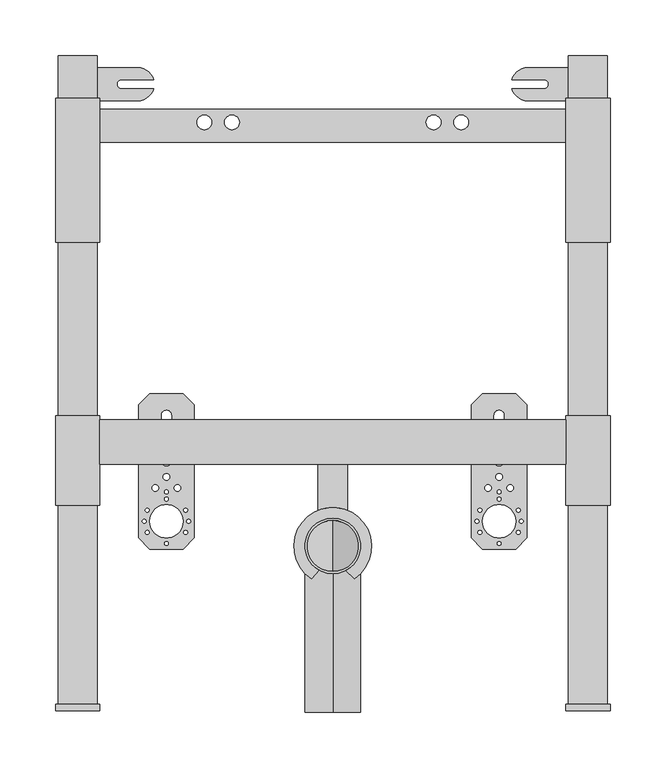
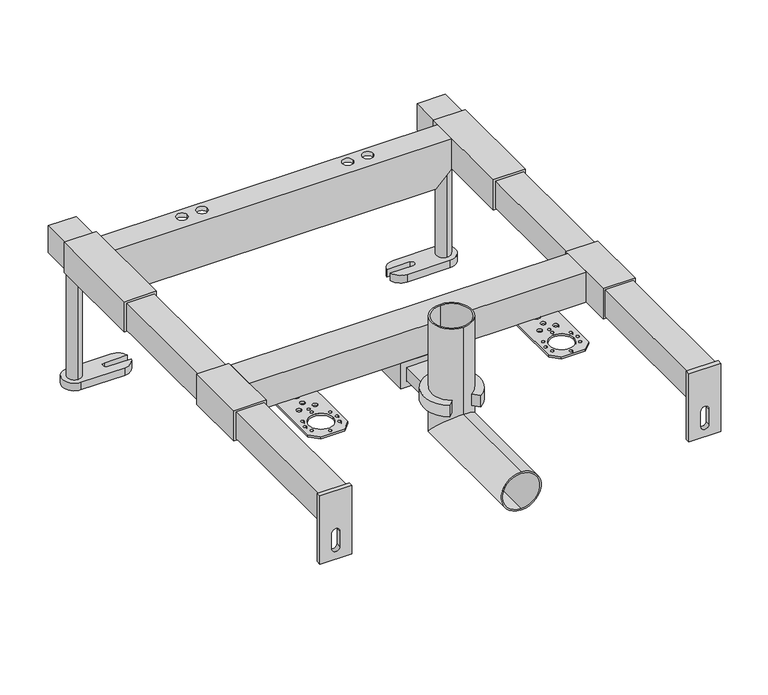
"""IFC4 building model written with IfcOpenShell, lengths in millimetres: flow terminal geometry, LIV-FIX BD 59 cm : LIV-FIX BD 59 cm."""

from ifc_helpers import new_model, si_unit, point, frame, frame_2d, origin, origin_with_axes, place, context, project, spatial, polyline, circle_curve, ellipse_curve, trimmed, segment, composite_curve, outline, extrude, source, transform, mapped, element, save
from ifc_brep_helpers import plane_surface, cylinder_surface, revolved_surface, advanced_brep


def flow_terminal_052f3f1a(model_context):
    return source(origin(), model_context, "Body", "SolidModel", [
        extrude(outline(polyline([(-210.0, 422.2826005), (-250.0, 422.2826005), (-250.0, 552.0), (-210.0, 552.0), (-210.0, 422.2826005)])), frame((0.0, 0.0, 160.0), z_axis=(0.0, 0.0, 1.0), x_axis=(1.0, 0.0, 0.0)), (0.0, 0.0, 1.0), 40.0),
        extrude(outline(polyline([(250.0, 422.2826005), (210.0, 422.2826005), (210.0, 552.0), (250.0, 552.0), (250.0, 422.2826005)])), frame((0.0, 0.0, 160.0), z_axis=(0.0, 0.0, 1.0), x_axis=(1.0, 0.0, 0.0)), (0.0, 0.0, 1.0), 40.0),
        extrude(outline(polyline([(-134.9772366, 285.710972), (-124.9772366, 275.710972), (-124.9772366, 155.710972), (-134.9772366, 145.710972), (-164.9772366, 145.710972), (-174.9772366, 155.710972), (-174.9772366, 275.710972), (-164.9772366, 285.710972), (-134.9772366, 285.710972)]), holes=[composite_curve([segment(trimmed(circle_curve(frame_2d((-149.9772366, 266.210972)), 4.5), [point((-145.4772366, 266.210972))], [point((-154.4772366, 266.210972))], True, "CARTESIAN"), True, "CONTINUOUS"), segment(polyline([(-154.4772366, 266.210972), (-154.4772366, 225.210972)]), True, "CONTINUOUS"), segment(trimmed(circle_curve(frame_2d((-149.9772366, 225.210972)), 4.5), [point((-154.4772366, 225.210972))], [point((-145.4772366, 225.210972))], True, "CARTESIAN"), True, "CONTINUOUS"), segment(polyline([(-145.4772366, 225.210972), (-145.4772366, 266.210972)]), True, "CONTINUOUS")], self_intersect=False), composite_curve([segment(trimmed(circle_curve(frame_2d((-149.9772366, 170.710972)), 15.0), [point((-164.9772366, 170.710972))], [point((-134.9772366, 170.710972))], True, "CARTESIAN"), True, "CONTINUOUS"), segment(trimmed(circle_curve(frame_2d((-149.9772366, 170.710972)), 15.0), [point((-134.9772366, 170.710972))], [point((-164.9772366, 170.710972))], True, "CARTESIAN"), True, "CONTINUOUS")], self_intersect=False), composite_curve([segment(trimmed(circle_curve(frame_2d((-129.9772366, 170.710972)), 1.75), [point((-131.7272366, 170.710972))], [point((-128.2272366, 170.710972))], True, "CARTESIAN"), True, "CONTINUOUS"), segment(trimmed(circle_curve(frame_2d((-129.9772366, 170.710972)), 1.75), [point((-128.2272366, 170.710972))], [point((-131.7272366, 170.710972))], True, "CARTESIAN"), True, "CONTINUOUS")], self_intersect=False), composite_curve([segment(trimmed(circle_curve(frame_2d((-149.9772366, 150.710972)), 1.75), [point((-151.7272366, 150.710972))], [point((-148.2272366, 150.710972))], True, "CARTESIAN"), True, "CONTINUOUS"), segment(trimmed(circle_curve(frame_2d((-149.9772366, 150.710972)), 1.75), [point((-148.2272366, 150.710972))], [point((-151.7272366, 150.710972))], True, "CARTESIAN"), True, "CONTINUOUS")], self_intersect=False), composite_curve([segment(trimmed(circle_curve(frame_2d((-169.9772366, 170.710972)), 1.75), [point((-171.7272366, 170.710972))], [point((-168.2272366, 170.710972))], True, "CARTESIAN"), True, "CONTINUOUS"), segment(trimmed(circle_curve(frame_2d((-169.9772366, 170.710972)), 1.75), [point((-168.2272366, 170.710972))], [point((-171.7272366, 170.710972))], True, "CARTESIAN"), True, "CONTINUOUS")], self_intersect=False), composite_curve([segment(trimmed(circle_curve(frame_2d((-149.9772366, 190.710972)), 1.75), [point((-151.7272366, 190.710972))], [point((-148.2272366, 190.710972))], True, "CARTESIAN"), True, "CONTINUOUS"), segment(trimmed(circle_curve(frame_2d((-149.9772366, 190.710972)), 1.75), [point((-148.2272366, 190.710972))], [point((-151.7272366, 190.710972))], True, "CARTESIAN"), True, "CONTINUOUS")], self_intersect=False), composite_curve([segment(trimmed(circle_curve(frame_2d((-167.2977447, 180.710972)), 1.75), [point((-169.0477447, 180.710972))], [point((-165.5477447, 180.710972))], True, "CARTESIAN"), True, "CONTINUOUS"), segment(trimmed(circle_curve(frame_2d((-167.2977447, 180.710972)), 1.75), [point((-165.5477447, 180.710972))], [point((-169.0477447, 180.710972))], True, "CARTESIAN"), True, "CONTINUOUS")], self_intersect=False), composite_curve([segment(trimmed(circle_curve(frame_2d((-167.2977447, 160.710972)), 1.75), [point((-169.0477447, 160.710972))], [point((-165.5477447, 160.710972))], True, "CARTESIAN"), True, "CONTINUOUS"), segment(trimmed(circle_curve(frame_2d((-167.2977447, 160.710972)), 1.75), [point((-165.5477447, 160.710972))], [point((-169.0477447, 160.710972))], True, "CARTESIAN"), True, "CONTINUOUS")], self_intersect=False), composite_curve([segment(trimmed(circle_curve(frame_2d((-132.6567285, 180.710972)), 1.75), [point((-134.4067285, 180.710972))], [point((-130.9067285, 180.710972))], True, "CARTESIAN"), True, "CONTINUOUS"), segment(trimmed(circle_curve(frame_2d((-132.6567285, 180.710972)), 1.75), [point((-130.9067285, 180.710972))], [point((-134.4067285, 180.710972))], True, "CARTESIAN"), True, "CONTINUOUS")], self_intersect=False), composite_curve([segment(trimmed(circle_curve(frame_2d((-132.6567285, 160.710972)), 1.75), [point((-134.4067285, 160.710972))], [point((-130.9067285, 160.710972))], True, "CARTESIAN"), True, "CONTINUOUS"), segment(trimmed(circle_curve(frame_2d((-132.6567285, 160.710972)), 1.75), [point((-130.9067285, 160.710972))], [point((-134.4067285, 160.710972))], True, "CARTESIAN"), True, "CONTINUOUS")], self_intersect=False), composite_curve([segment(trimmed(circle_curve(frame_2d((-139.9772366, 200.710972)), 3.0), [point((-142.9772366, 200.710972))], [point((-136.9772366, 200.710972))], True, "CARTESIAN"), True, "CONTINUOUS"), segment(trimmed(circle_curve(frame_2d((-139.9772366, 200.710972)), 3.0), [point((-136.9772366, 200.710972))], [point((-142.9772366, 200.710972))], True, "CARTESIAN"), True, "CONTINUOUS")], self_intersect=False), composite_curve([segment(trimmed(circle_curve(frame_2d((-149.9772366, 210.710972)), 3.0), [point((-152.9772366, 210.710972))], [point((-146.9772366, 210.710972))], True, "CARTESIAN"), True, "CONTINUOUS"), segment(trimmed(circle_curve(frame_2d((-149.9772366, 210.710972)), 3.0), [point((-146.9772366, 210.710972))], [point((-152.9772366, 210.710972))], True, "CARTESIAN"), True, "CONTINUOUS")], self_intersect=False), composite_curve([segment(trimmed(circle_curve(frame_2d((-159.9772366, 200.710972)), 3.0), [point((-162.9772366, 200.710972))], [point((-156.9772366, 200.710972))], True, "CARTESIAN"), True, "CONTINUOUS"), segment(trimmed(circle_curve(frame_2d((-159.9772366, 200.710972)), 3.0), [point((-156.9772366, 200.710972))], [point((-162.9772366, 200.710972))], True, "CARTESIAN"), True, "CONTINUOUS")], self_intersect=False), composite_curve([segment(trimmed(circle_curve(frame_2d((-149.9772366, 197.210972)), 1.75), [point((-151.7272366, 197.210972))], [point((-148.2272366, 197.210972))], True, "CARTESIAN"), True, "CONTINUOUS"), segment(trimmed(circle_curve(frame_2d((-149.9772366, 197.210972)), 1.75), [point((-148.2272366, 197.210972))], [point((-151.7272366, 197.210972))], True, "CARTESIAN"), True, "CONTINUOUS")], self_intersect=False)]), frame((0.0, 0.0, 157.5), z_axis=(0.0, 0.0, 1.0), x_axis=(1.0, 0.0, 0.0)), (0.0, 0.0, 1.0), 2.5),
        extrude(outline(polyline([(134.9772366, 285.710972), (164.9772366, 285.710972), (174.9772366, 275.710972), (174.9772366, 155.710972), (164.9772366, 145.710972), (134.9772366, 145.710972), (124.9772366, 155.710972), (124.9772366, 275.710972), (134.9772366, 285.710972)]), holes=[composite_curve([segment(polyline([(145.4772366, 266.210972), (145.4772366, 225.210972)]), True, "CONTINUOUS"), segment(trimmed(circle_curve(frame_2d((149.9772366, 225.210972)), 4.5), [point((145.4772366, 225.210972))], [point((154.4772366, 225.210972))], True, "CARTESIAN"), True, "CONTINUOUS"), segment(polyline([(154.4772366, 225.210972), (154.4772366, 266.210972)]), True, "CONTINUOUS"), segment(trimmed(circle_curve(frame_2d((149.9772366, 266.210972)), 4.5), [point((154.4772366, 266.210972))], [point((145.4772366, 266.210972))], True, "CARTESIAN"), True, "CONTINUOUS")], self_intersect=False), composite_curve([segment(trimmed(circle_curve(frame_2d((149.9772366, 170.710972)), 15.0), [point((134.9772366, 170.710972))], [point((164.9772366, 170.710972))], True, "CARTESIAN"), True, "CONTINUOUS"), segment(trimmed(circle_curve(frame_2d((149.9772366, 170.710972)), 15.0), [point((164.9772366, 170.710972))], [point((134.9772366, 170.710972))], True, "CARTESIAN"), True, "CONTINUOUS")], self_intersect=False), composite_curve([segment(trimmed(circle_curve(frame_2d((129.9772366, 170.710972)), 1.75), [point((128.2272366, 170.710972))], [point((131.7272366, 170.710972))], True, "CARTESIAN"), True, "CONTINUOUS"), segment(trimmed(circle_curve(frame_2d((129.9772366, 170.710972)), 1.75), [point((131.7272366, 170.710972))], [point((128.2272366, 170.710972))], True, "CARTESIAN"), True, "CONTINUOUS")], self_intersect=False), composite_curve([segment(trimmed(circle_curve(frame_2d((149.9772366, 150.710972)), 1.75), [point((148.2272366, 150.710972))], [point((151.7272366, 150.710972))], True, "CARTESIAN"), True, "CONTINUOUS"), segment(trimmed(circle_curve(frame_2d((149.9772366, 150.710972)), 1.75), [point((151.7272366, 150.710972))], [point((148.2272366, 150.710972))], True, "CARTESIAN"), True, "CONTINUOUS")], self_intersect=False), composite_curve([segment(trimmed(circle_curve(frame_2d((169.9772366, 170.710972)), 1.75), [point((168.2272366, 170.710972))], [point((171.7272366, 170.710972))], True, "CARTESIAN"), True, "CONTINUOUS"), segment(trimmed(circle_curve(frame_2d((169.9772366, 170.710972)), 1.75), [point((171.7272366, 170.710972))], [point((168.2272366, 170.710972))], True, "CARTESIAN"), True, "CONTINUOUS")], self_intersect=False), composite_curve([segment(trimmed(circle_curve(frame_2d((149.9772366, 190.710972)), 1.75), [point((148.2272366, 190.710972))], [point((151.7272366, 190.710972))], True, "CARTESIAN"), True, "CONTINUOUS"), segment(trimmed(circle_curve(frame_2d((149.9772366, 190.710972)), 1.75), [point((151.7272366, 190.710972))], [point((148.2272366, 190.710972))], True, "CARTESIAN"), True, "CONTINUOUS")], self_intersect=False), composite_curve([segment(trimmed(circle_curve(frame_2d((167.2977447, 180.710972)), 1.75), [point((165.5477447, 180.710972))], [point((169.0477447, 180.710972))], True, "CARTESIAN"), True, "CONTINUOUS"), segment(trimmed(circle_curve(frame_2d((167.2977447, 180.710972)), 1.75), [point((169.0477447, 180.710972))], [point((165.5477447, 180.710972))], True, "CARTESIAN"), True, "CONTINUOUS")], self_intersect=False), composite_curve([segment(trimmed(circle_curve(frame_2d((167.2977447, 160.710972)), 1.75), [point((165.5477447, 160.710972))], [point((169.0477447, 160.710972))], True, "CARTESIAN"), True, "CONTINUOUS"), segment(trimmed(circle_curve(frame_2d((167.2977447, 160.710972)), 1.75), [point((169.0477447, 160.710972))], [point((165.5477447, 160.710972))], True, "CARTESIAN"), True, "CONTINUOUS")], self_intersect=False), composite_curve([segment(trimmed(circle_curve(frame_2d((132.6567285, 180.710972)), 1.75), [point((130.9067285, 180.710972))], [point((134.4067285, 180.710972))], True, "CARTESIAN"), True, "CONTINUOUS"), segment(trimmed(circle_curve(frame_2d((132.6567285, 180.710972)), 1.75), [point((134.4067285, 180.710972))], [point((130.9067285, 180.710972))], True, "CARTESIAN"), True, "CONTINUOUS")], self_intersect=False), composite_curve([segment(trimmed(circle_curve(frame_2d((132.6567285, 160.710972)), 1.75), [point((130.9067285, 160.710972))], [point((134.4067285, 160.710972))], True, "CARTESIAN"), True, "CONTINUOUS"), segment(trimmed(circle_curve(frame_2d((132.6567285, 160.710972)), 1.75), [point((134.4067285, 160.710972))], [point((130.9067285, 160.710972))], True, "CARTESIAN"), True, "CONTINUOUS")], self_intersect=False), composite_curve([segment(trimmed(circle_curve(frame_2d((139.9772366, 200.710972)), 3.0), [point((136.9772366, 200.710972))], [point((142.9772366, 200.710972))], True, "CARTESIAN"), True, "CONTINUOUS"), segment(trimmed(circle_curve(frame_2d((139.9772366, 200.710972)), 3.0), [point((142.9772366, 200.710972))], [point((136.9772366, 200.710972))], True, "CARTESIAN"), True, "CONTINUOUS")], self_intersect=False), composite_curve([segment(trimmed(circle_curve(frame_2d((149.9772366, 210.710972)), 3.0), [point((146.9772366, 210.710972))], [point((152.9772366, 210.710972))], True, "CARTESIAN"), True, "CONTINUOUS"), segment(trimmed(circle_curve(frame_2d((149.9772366, 210.710972)), 3.0), [point((152.9772366, 210.710972))], [point((146.9772366, 210.710972))], True, "CARTESIAN"), True, "CONTINUOUS")], self_intersect=False), composite_curve([segment(trimmed(circle_curve(frame_2d((159.9772366, 200.710972)), 3.0), [point((156.9772366, 200.710972))], [point((162.9772366, 200.710972))], True, "CARTESIAN"), True, "CONTINUOUS"), segment(trimmed(circle_curve(frame_2d((159.9772366, 200.710972)), 3.0), [point((162.9772366, 200.710972))], [point((156.9772366, 200.710972))], True, "CARTESIAN"), True, "CONTINUOUS")], self_intersect=False), composite_curve([segment(trimmed(circle_curve(frame_2d((149.9772366, 197.210972)), 1.75), [point((148.2272366, 197.210972))], [point((151.7272366, 197.210972))], True, "CARTESIAN"), True, "CONTINUOUS"), segment(trimmed(circle_curve(frame_2d((149.9772366, 197.210972)), 1.75), [point((151.7272366, 197.210972))], [point((148.2272366, 197.210972))], True, "CARTESIAN"), True, "CONTINUOUS")], self_intersect=False)]), frame((0.0, 0.0, 157.5), z_axis=(0.0, 0.0, 1.0), x_axis=(1.0, 0.0, 0.0)), (0.0, 0.0, 1.0), 2.5),
        advanced_brep(
        [(-13.5, 178.2611543, 151.25), (-13.5, 178.2611543, 135.25), (13.5, 178.2611543, 135.25), (13.5, 178.2611543, 151.25), (13.5, 262.0, 151.25), (13.5, 262.0, 135.25), (-13.5, 262.0, 135.25), (-13.5, 262.0, 151.25), (13.5, 180.5527941, 151.25), (-13.5, 180.5527941, 151.25), (19.3630713, 119.1051692, 166.25), (-19.3630713, 119.1051692, 166.25), (-12.1911763, 126.4444764, 166.25), (12.1158534, 126.3606248, 166.25), (19.3630713, 119.1051692, 151.25), (12.1158534, 126.3606248, 151.25), (-12.1911763, 126.4444764, 151.25), (-19.3630713, 119.1051692, 151.25)],
        [
            (0, 1),
            (1, 2),
            (2, 3),
            (3, 0),
            (4, 5),
            (5, 6),
            (6, 7),
            (7, 4),
            (2, 5),
            (4, 8),
            (8, 3),
            (1, 6),
            (0, 9),
            (9, 7),
            (9, 8, circle_curve(frame((0.0, 148.2611543, 151.25), z_axis=(0.0, 0.0, -1.0), x_axis=(1.0, 0.0, 0.0)), 35.0)),
            (10, 11, circle_curve(frame((0.0, 148.2611543, 166.25), z_axis=(0.0, 0.0, 1.0), x_axis=(1.0, 0.0, 0.0)), 35.0)),
            (11, 12),
            (12, 13, circle_curve(frame((0.0376615, 148.237286, 166.25), z_axis=(0.0, 0.0, -1.0), x_axis=(1.0, 0.0, 0.0)), 24.9894182)),
            (13, 10),
            (14, 15),
            (15, 16, circle_curve(frame((0.0376615, 148.237286, 151.25), z_axis=(0.0, 0.0, 1.0), x_axis=(1.0, 0.0, 0.0)), 24.9894182)),
            (16, 17),
            (17, 9, circle_curve(frame((0.0, 148.2611543, 151.25), z_axis=(0.0, 0.0, -1.0), x_axis=(1.0, 0.0, 0.0)), 35.0)),
            (8, 14, circle_curve(frame((0.0, 148.2611543, 151.25), z_axis=(0.0, 0.0, -1.0), x_axis=(1.0, 0.0, 0.0)), 35.0)),
            (10, 14),
            (17, 11),
            (16, 12),
            (15, 13),
        ],
        [
            plane_surface(frame((13.5, 178.2611543, 151.25), z_axis=(0.0, -1.0, 0.0), x_axis=(0.0, 0.0, 1.0))),
            plane_surface(frame((13.5, 262.0, 151.25), z_axis=(0.0, 1.0, 0.0), x_axis=(0.0, 0.0, -1.0))),
            plane_surface(frame((13.5, 262.0, 151.25), z_axis=(1.0, 0.0, 0.0), x_axis=(0.0, -1.0, 0.0))),
            plane_surface(frame((13.5, 262.0, 135.25), z_axis=(0.0, 0.0, -1.0), x_axis=(0.0, -1.0, 0.0))),
            plane_surface(frame((-13.5, 262.0, 135.25), z_axis=(-1.0, 0.0, 0.0), x_axis=(0.0, -1.0, 0.0))),
            plane_surface(frame((-13.5, 262.0, 151.25), z_axis=(0.0, 0.0, 1.0), x_axis=(0.0, -1.0, 0.0))),
            plane_surface(frame((35.0, 148.2611543, 166.25), z_axis=(0.0, 0.0, 1.0), x_axis=(0.0, 1.0, 0.0))),
            plane_surface(frame((35.0, 148.2611543, 151.25), z_axis=(0.0, 0.0, -1.0), x_axis=(0.0, -1.0, 0.0))),
            cylinder_surface(frame((0.0, 148.2611543, 151.25), z_axis=(0.0, 0.0, 1.0), x_axis=(1.0, 0.0, 0.0)), 35.0),
            plane_surface(frame((-19.3630713, 119.1051692, 166.25), z_axis=(0.7152169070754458, -0.6989025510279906, 0.0), x_axis=(0.0, 0.0, -1.0))),
            revolved_surface(polyline([(25.027079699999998, 148.237286, 151.25), (25.027079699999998, 148.237286, 166.25)]), (0.0376615, 148.237286, 151.25), (0.0, 0.0, -1.0)),
            plane_surface(frame((12.1158534, 126.3606248, 166.25), z_axis=(-0.7075083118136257, -0.7067050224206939, 0.0), x_axis=(0.0, 0.0, -1.0))),
        ],
        [
            (0, [[1, 2, 3, 4]]),
            (1, [[5, 6, 7, 8]]),
            (2, [[-3, 9, -5, 10, 11]]),
            (3, [[-2, 12, -6, -9]]),
            (4, [[-1, 13, 14, -7, -12]]),
            (5, [[-8, -14, 15, -10]]),
            (6, [[16, 17, 18, 19]]),
            (7, [[20, 21, 22, 23, -13, -4, -11, 24]]),
            (8, [[-16, 25, -24, -15, -23, 26]]),
            (9, [[-17, -26, -22, 27]]),
            (10, [[-18, -27, -21, 28]]),
            (11, [[-19, -28, -20, -25]]),
        ],
    ),
        advanced_brep(
        [(0.0, -1.5, 145.0), (0.0, -1.5, 95.0), (0.0, -1.5, 143.0), (0.0, -1.5, 97.0), (0.0, 123.5, 145.0), (0.0, 173.5, 95.0), (0.0, 125.5, 143.0), (0.0, 171.5, 97.0), (0.0, 123.5, 260.0), (0.0, 173.5, 260.0), (0.0, 125.5, 260.0), (0.0, 171.5, 260.0)],
        [
            (0, 1, circle_curve(frame((0.0, -1.5, 120.0), z_axis=(0.0, -1.0, 0.0), x_axis=(0.0, 0.0, -1.0)), 25.0)),
            (1, 0, circle_curve(frame((0.0, -1.5, 120.0), z_axis=(0.0, -1.0, 0.0), x_axis=(0.0, 0.0, -1.0)), 25.0)),
            (2, 3, circle_curve(frame((0.0, -1.5, 120.0), z_axis=(0.0, 1.0, 0.0), x_axis=(0.0, 0.0, -1.0)), 23.0)),
            (3, 2, circle_curve(frame((0.0, -1.5, 120.0), z_axis=(0.0, 1.0, 0.0), x_axis=(0.0, 0.0, -1.0)), 23.0)),
            (0, 4),
            (4, 5, ellipse_curve(frame((0.0, 148.5, 120.0), z_axis=(0.0, -0.7071067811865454, -0.7071067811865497), x_axis=(0.0, -0.7071067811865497, 0.7071067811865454)), 35.3553391, 25.0)),
            (5, 1),
            (5, 4, ellipse_curve(frame((0.0, 148.5, 120.0), z_axis=(0.0, -0.7071067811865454, -0.7071067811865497), x_axis=(0.0, -0.7071067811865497, 0.7071067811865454)), 35.3553391, 25.0)),
            (2, 6),
            (6, 7, ellipse_curve(frame((0.0, 148.5, 120.0), z_axis=(0.0, 0.7071067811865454, 0.7071067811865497), x_axis=(0.0, 0.7071067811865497, -0.7071067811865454)), 32.5269119, 23.0)),
            (7, 3),
            (7, 6, ellipse_curve(frame((0.0, 148.5, 120.0), z_axis=(0.0, 0.7071067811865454, 0.7071067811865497), x_axis=(0.0, 0.7071067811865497, -0.7071067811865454)), 32.5269119, 23.0)),
            (8, 9, circle_curve(frame((0.0, 148.5, 260.0), z_axis=(0.0, 0.0, 1.0), x_axis=(0.0, 1.0, 0.0)), 25.0)),
            (9, 8, circle_curve(frame((0.0, 148.5, 260.0), z_axis=(0.0, 0.0, 1.0), x_axis=(0.0, 1.0, 0.0)), 25.0)),
            (10, 11, circle_curve(frame((0.0, 148.5, 260.0), z_axis=(0.0, 0.0, -1.0), x_axis=(0.0, 1.0, 0.0)), 23.0)),
            (11, 10, circle_curve(frame((0.0, 148.5, 260.0), z_axis=(0.0, 0.0, -1.0), x_axis=(0.0, 1.0, 0.0)), 23.0)),
            (4, 8),
            (9, 5),
            (6, 10),
            (11, 7),
        ],
        [
            plane_surface(frame((0.0, -1.5, 120.0), z_axis=(0.0, -1.0, 0.0), x_axis=(-1.0, 0.0, 0.0))),
            cylinder_surface(frame((0.0, -1.5, 120.0), z_axis=(0.0, -1.0, 0.0), x_axis=(0.0, 0.0, -1.0)), 25.0),
            revolved_surface(polyline([(0.0, 171.5, 97.0), (0.0, -1.5, 97.0)]), (0.0, -1.5, 120.0), (0.0, 1.0, 0.0)),
            plane_surface(frame((0.0, 148.5, 260.0), z_axis=(0.0, 0.0, 1.0), x_axis=(-1.0, 0.0, 0.0))),
            cylinder_surface(frame((0.0, 148.5, 120.0), z_axis=(0.0, 0.0, -1.0), x_axis=(0.0, 1.0, 0.0)), 25.0),
            revolved_surface(polyline([(0.0, 171.5, 260.0), (0.0, 171.5, 97.0)]), (0.0, 148.5, 120.0), (0.0, 0.0, 1.0)),
        ],
        [
            (0, [[1, 2], [3, 4]]),
            (1, [[-1, 5, 6, 7]]),
            (1, [[-2, -7, 8, -5]]),
            (2, [[-3, 9, 10, 11]]),
            (2, [[-4, -11, 12, -9]]),
            (3, [[13, 14], [15, 16]]),
            (4, [[-6, 17, -14, 18]]),
            (4, [[-8, -18, -13, -17]]),
            (5, [[-10, 19, -16, 20]]),
            (5, [[-12, -20, -15, -19]]),
        ],
    ),
        extrude(outline(polyline([(160.0, -20.75), (126.5, -20.75), (126.5, 20.75), (160.0, 20.75), (160.0, -20.75)]), holes=[polyline([(152.5, -13.75), (152.5, 13.75), (134.0, 13.75), (134.0, -13.75), (152.5, -13.75)])]), frame((0.0, 222.0, 0.0), z_axis=(0.0, 1.0, 0.0), x_axis=(0.0, 0.0, 1.0)), (0.0, 0.0, 1.0), 40.0),
        extrude(outline(polyline([(222.0, 200.0), (262.0, 200.0), (262.0, 160.0), (249.5, 160.0), (249.5, 161.5), (260.5, 161.5), (260.5, 198.5), (223.5, 198.5), (223.5, 161.5), (234.5, 161.5), (234.5, 160.0), (222.0, 160.0), (222.0, 200.0)])), frame((-210.0, 0.0, 0.0), z_axis=(1.0, 0.0, 0.0), x_axis=(0.0, 1.0, 0.0)), (0.0, 0.0, 1.0), 420.0),
        extrude(outline(composite_curve([segment(trimmed(circle_curve(frame_2d((-230.0, 564.5)), 8.75), [point((-230.0, 555.75))], [point((-230.0, 573.25))], False, "CARTESIAN"), True, "CONTINUOUS"), segment(trimmed(circle_curve(frame_2d((-230.0, 564.5)), 8.75), [point((-230.0, 573.25))], [point((-230.0, 555.75))], False, "CARTESIAN"), True, "CONTINUOUS")], self_intersect=False)), frame((0.0, 0.0, 10.0), z_axis=(0.0, 0.0, 1.0), x_axis=(1.0, 0.0, 0.0)), (0.0, 0.0, 1.0), 150.0),
        extrude(outline(composite_curve([segment(trimmed(circle_curve(frame_2d((230.0, 564.5)), 8.75), [point((230.0, 555.75))], [point((230.0, 573.25))], False, "CARTESIAN"), True, "CONTINUOUS"), segment(trimmed(circle_curve(frame_2d((230.0, 564.5)), 8.75), [point((230.0, 573.25))], [point((230.0, 555.75))], False, "CARTESIAN"), True, "CONTINUOUS")], self_intersect=False)), frame((0.0, 0.0, 10.0), z_axis=(0.0, 0.0, 1.0), x_axis=(1.0, 0.0, 0.0)), (0.0, 0.0, 1.0), 150.0),
        extrude(outline(composite_curve([segment(trimmed(circle_curve(frame_2d((-230.0, 564.5)), 15.0), [point((-230.0, 549.5))], [point((-230.0, 579.5))], False, "CARTESIAN"), True, "CONTINUOUS"), segment(polyline([(-230.0, 579.5), (-176.0, 579.5)]), True, "CONTINUOUS"), segment(trimmed(circle_curve(frame_2d((-176.0, 564.5)), 15.0), [point((-176.0, 579.5))], [point((-161.5431677, 568.5))], False, "CARTESIAN"), True, "CONTINUOUS"), segment(polyline([(-161.5431677, 568.5), (-190.4568323, 568.5)]), True, "CONTINUOUS"), segment(trimmed(circle_curve(frame_2d((-190.4568323, 564.5)), 4.0), [point((-190.4568323, 568.5))], [point((-190.4568323, 560.5))], True, "CARTESIAN"), True, "CONTINUOUS"), segment(polyline([(-190.4568323, 560.5), (-161.5431677, 560.5)]), True, "CONTINUOUS"), segment(trimmed(circle_curve(frame_2d((-176.0, 564.5)), 15.0), [point((-161.5431677, 560.5))], [point((-176.0, 549.5))], False, "CARTESIAN"), True, "CONTINUOUS"), segment(polyline([(-176.0, 549.5), (-230.0, 549.5)]), True, "CONTINUOUS")], self_intersect=False)), origin_with_axes(), (0.0, 0.0, 1.0), 10.0),
        extrude(outline(composite_curve([segment(polyline([(230.0, 549.5), (176.0, 549.5)]), True, "CONTINUOUS"), segment(trimmed(circle_curve(frame_2d((176.0, 564.5)), 15.0), [point((176.0, 549.5))], [point((161.5431677, 560.5))], False, "CARTESIAN"), True, "CONTINUOUS"), segment(polyline([(161.5431677, 560.5), (190.4568323, 560.5)]), True, "CONTINUOUS"), segment(trimmed(circle_curve(frame_2d((190.4568323, 564.5)), 4.0), [point((190.4568323, 560.5))], [point((190.4568323, 568.5))], True, "CARTESIAN"), True, "CONTINUOUS"), segment(polyline([(190.4568323, 568.5), (161.5431677, 568.5)]), True, "CONTINUOUS"), segment(trimmed(circle_curve(frame_2d((176.0, 564.5)), 15.0), [point((161.5431677, 568.5))], [point((176.0, 579.5))], False, "CARTESIAN"), True, "CONTINUOUS"), segment(polyline([(176.0, 579.5), (230.0, 579.5)]), True, "CONTINUOUS"), segment(trimmed(circle_curve(frame_2d((230.0, 564.5)), 15.0), [point((230.0, 579.5))], [point((230.0, 549.5))], False, "CARTESIAN"), True, "CONTINUOUS")], self_intersect=False)), origin_with_axes(), (0.0, 0.0, 1.0), 10.0),
        extrude(outline(polyline([(-247.5, 590.3261171), (-212.5, 590.3261171), (-212.5, 6.0), (-247.5, 6.0), (-247.5, 590.3261171)])), frame((0.0, 0.0, 162.5), z_axis=(0.0, 0.0, 1.0), x_axis=(1.0, 0.0, 0.0)), (0.0, 0.0, 1.0), 35.0),
        extrude(outline(polyline([(212.4841074, 590.3261171), (247.4841074, 590.3261171), (247.4841074, 6.0), (212.4841074, 6.0), (212.4841074, 590.3261171)])), frame((0.0, 0.0, 162.5), z_axis=(0.0, 0.0, 1.0), x_axis=(1.0, 0.0, 0.0)), (0.0, 0.0, 1.0), 35.0),
        extrude(outline(polyline([(200.0, 250.0), (200.0, 210.0), (110.0, 210.0), (110.0, 250.0), (200.0, 250.0)]), holes=[composite_curve([segment(trimmed(circle_curve(frame_2d((145.0, 230.0)), 5.0), [point((145.0, 225.0))], [point((145.0, 235.0))], True, "CARTESIAN"), True, "CONTINUOUS"), segment(polyline([(145.0, 235.0), (125.0, 235.0)]), True, "CONTINUOUS"), segment(trimmed(circle_curve(frame_2d((125.0, 230.0)), 5.0), [point((125.0, 235.0))], [point((125.0, 225.0))], True, "CARTESIAN"), True, "CONTINUOUS"), segment(polyline([(125.0, 225.0), (145.0, 225.0)]), True, "CONTINUOUS")], self_intersect=False)]), frame((0.0, 0.0, 0.0), z_axis=(0.0, 1.0, 0.0), x_axis=(0.0, 0.0, 1.0)), (0.0, 0.0, 1.0), 6.0),
        extrude(outline(polyline([(200.0, -210.0), (200.0, -250.0), (110.0, -250.0), (110.0, -210.0), (200.0, -210.0)]), holes=[composite_curve([segment(trimmed(circle_curve(frame_2d((145.0, -230.0)), 5.0), [point((145.0, -235.0))], [point((145.0, -225.0))], True, "CARTESIAN"), True, "CONTINUOUS"), segment(polyline([(145.0, -225.0), (125.0, -225.0)]), True, "CONTINUOUS"), segment(trimmed(circle_curve(frame_2d((125.0, -230.0)), 5.0), [point((125.0, -225.0))], [point((125.0, -235.0))], True, "CARTESIAN"), True, "CONTINUOUS"), segment(polyline([(125.0, -235.0), (145.0, -235.0)]), True, "CONTINUOUS")], self_intersect=False)]), frame((0.0, 0.0, 0.0), z_axis=(0.0, 1.0, 0.0), x_axis=(0.0, 0.0, 1.0)), (0.0, 0.0, 1.0), 6.0),
        advanced_brep(
        [(210.0, 517.0, 195.0), (210.0, 542.0, 195.0), (210.0, 542.0, 200.0), (210.0, 512.0, 200.0), (210.0, 512.0, 160.0), (210.0, 517.0, 160.0), (-210.0, 512.0, 200.0), (-210.0, 542.0, 200.0), (-210.0, 542.0, 195.0), (-210.0, 517.0, 195.0), (-210.0, 517.0, 160.0), (-210.0, 512.0, 160.0), (190.0, 512.0, 140.0), (-190.0, 512.0, 140.0), (-190.0, 517.0, 140.0), (190.0, 517.0, 140.0), (-97.45, 530.0, 195.0), (-84.15, 530.0, 195.0), (-122.45, 530.0, 195.0), (-109.15, 530.0, 195.0), (84.15, 530.0, 195.0), (97.45, 530.0, 195.0), (109.15, 530.0, 195.0), (122.45, 530.0, 195.0), (-84.15, 530.0, 200.0), (-97.45, 530.0, 200.0), (-109.15, 530.0, 200.0), (-122.45, 530.0, 200.0), (97.45, 530.0, 200.0), (84.15, 530.0, 200.0), (122.45, 530.0, 200.0), (109.15, 530.0, 200.0)],
        [
            (0, 1),
            (1, 2),
            (2, 3),
            (3, 4),
            (4, 5),
            (5, 0),
            (6, 7),
            (7, 8),
            (8, 9),
            (9, 10),
            (10, 11),
            (11, 6),
            (12, 13),
            (13, 14),
            (14, 15),
            (15, 12),
            (9, 0),
            (5, 15),
            (14, 10),
            (8, 1),
            (16, 17, circle_curve(frame((-90.8, 530.0, 195.0), z_axis=(0.0, 0.0, 1.0), x_axis=(-1.0, 0.0, 0.0)), 6.65)),
            (17, 16, circle_curve(frame((-90.8, 530.0, 195.0), z_axis=(0.0, 0.0, 1.0), x_axis=(-1.0, 0.0, 0.0)), 6.65)),
            (18, 19, circle_curve(frame((-115.8, 530.0, 195.0), z_axis=(0.0, 0.0, 1.0), x_axis=(-1.0, 0.0, 0.0)), 6.65)),
            (19, 18, circle_curve(frame((-115.8, 530.0, 195.0), z_axis=(0.0, 0.0, 1.0), x_axis=(-1.0, 0.0, 0.0)), 6.65)),
            (20, 21, circle_curve(frame((90.8, 530.0, 195.0), z_axis=(0.0, 0.0, 1.0), x_axis=(-1.0, 0.0, 0.0)), 6.65)),
            (21, 20, circle_curve(frame((90.8, 530.0, 195.0), z_axis=(0.0, 0.0, 1.0), x_axis=(-1.0, 0.0, 0.0)), 6.65)),
            (22, 23, circle_curve(frame((115.8, 530.0, 195.0), z_axis=(0.0, 0.0, 1.0), x_axis=(-1.0, 0.0, 0.0)), 6.65)),
            (23, 22, circle_curve(frame((115.8, 530.0, 195.0), z_axis=(0.0, 0.0, 1.0), x_axis=(-1.0, 0.0, 0.0)), 6.65)),
            (7, 2),
            (6, 3),
            (24, 25, circle_curve(frame((-90.8, 530.0, 200.0), z_axis=(0.0, 0.0, -1.0), x_axis=(-1.0, 0.0, 0.0)), 6.65)),
            (25, 24, circle_curve(frame((-90.8, 530.0, 200.0), z_axis=(0.0, 0.0, -1.0), x_axis=(-1.0, 0.0, 0.0)), 6.65)),
            (26, 27, circle_curve(frame((-115.8, 530.0, 200.0), z_axis=(0.0, 0.0, -1.0), x_axis=(-1.0, 0.0, 0.0)), 6.65)),
            (27, 26, circle_curve(frame((-115.8, 530.0, 200.0), z_axis=(0.0, 0.0, -1.0), x_axis=(-1.0, 0.0, 0.0)), 6.65)),
            (28, 29, circle_curve(frame((90.8, 530.0, 200.0), z_axis=(0.0, 0.0, -1.0), x_axis=(-1.0, 0.0, 0.0)), 6.65)),
            (29, 28, circle_curve(frame((90.8, 530.0, 200.0), z_axis=(0.0, 0.0, -1.0), x_axis=(-1.0, 0.0, 0.0)), 6.65)),
            (30, 31, circle_curve(frame((115.8, 530.0, 200.0), z_axis=(0.0, 0.0, -1.0), x_axis=(-1.0, 0.0, 0.0)), 6.65)),
            (31, 30, circle_curve(frame((115.8, 530.0, 200.0), z_axis=(0.0, 0.0, -1.0), x_axis=(-1.0, 0.0, 0.0)), 6.65)),
            (11, 13),
            (12, 4),
            (16, 25),
            (24, 17),
            (18, 27),
            (26, 19),
            (20, 29),
            (28, 21),
            (22, 31),
            (30, 23),
        ],
        [
            plane_surface(frame((210.0, 517.0, 140.0), z_axis=(1.0, 0.0, 0.0), x_axis=(0.0, 1.0, 0.0))),
            plane_surface(frame((-210.0, 517.0, 140.0), z_axis=(-1.0, 0.0, 0.0), x_axis=(0.0, -1.0, 0.0))),
            plane_surface(frame((210.0, 512.0, 140.0), z_axis=(0.0, 0.0, -1.0), x_axis=(-1.0, 0.0, 0.0))),
            plane_surface(frame((210.0, 517.0, 140.0), z_axis=(0.0, 1.0, 0.0), x_axis=(-1.0, 0.0, 0.0))),
            plane_surface(frame((210.0, 517.0, 195.0), z_axis=(0.0, 0.0, -1.0), x_axis=(-1.0, 0.0, 0.0))),
            plane_surface(frame((210.0, 542.0, 195.0), z_axis=(0.0, 1.0, 0.0), x_axis=(-1.0, 0.0, 0.0))),
            plane_surface(frame((210.0, 542.0, 200.0), z_axis=(0.0, 0.0, 1.0), x_axis=(-1.0, 0.0, 0.0))),
            plane_surface(frame((210.0, 512.0, 200.0), z_axis=(0.0, -1.0, 0.0), x_axis=(-1.0, 0.0, 0.0))),
            revolved_surface(polyline([(-97.45, 530.0, 195.0), (-97.45, 530.0, 200.0)]), (-90.8, 530.0, 200.0), (0.0, 0.0, -1.0)),
            revolved_surface(polyline([(-122.45, 530.0, 195.0), (-122.45, 530.0, 200.0)]), (-115.8, 530.0, 200.0), (0.0, 0.0, -1.0)),
            plane_surface(frame((-190.0, 512.0, 140.0), z_axis=(-0.707106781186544, 0.0, -0.7071067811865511), x_axis=(0.0, 1.0, 0.0))),
            plane_surface(frame((210.0, 512.0, 160.0), z_axis=(0.7071067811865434, 0.0, -0.7071067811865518), x_axis=(0.0, 1.0, 0.0))),
            revolved_surface(polyline([(84.14999999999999, 530.0, 195.0), (84.14999999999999, 530.0, 200.0)]), (90.8, 530.0, 200.0), (0.0, 0.0, -1.0)),
            revolved_surface(polyline([(109.14999999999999, 530.0, 195.0), (109.14999999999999, 530.0, 200.0)]), (115.8, 530.0, 200.0), (0.0, 0.0, -1.0)),
        ],
        [
            (0, [[1, 2, 3, 4, 5, 6]]),
            (1, [[7, 8, 9, 10, 11, 12]]),
            (2, [[13, 14, 15, 16]]),
            (3, [[17, -6, 18, -15, 19, -10]]),
            (4, [[-1, -17, -9, 20], [21, 22], [23, 24], [25, 26], [27, 28]]),
            (5, [[-2, -20, -8, 29]]),
            (6, [[-3, -29, -7, 30], [31, 32], [33, 34], [35, 36], [37, 38]]),
            (7, [[-30, -12, 39, -13, 40, -4]]),
            (8, [[41, -31, 42, -21]]),
            (8, [[-41, -22, -42, -32]]),
            (9, [[43, -33, 44, -23]]),
            (9, [[-43, -24, -44, -34]]),
            (10, [[-11, -19, -14, -39]]),
            (11, [[-5, -40, -16, -18]]),
            (12, [[45, -35, 46, -25]]),
            (12, [[-45, -26, -46, -36]]),
            (13, [[47, -37, 48, -27]]),
            (13, [[-47, -28, -48, -38]]),
        ],
    ),
        extrude(outline(polyline([(-210.0, 185.3072953), (-250.0, 185.3072953), (-250.0, 265.6123695), (-210.0, 265.6123695), (-210.0, 185.3072953)])), frame((0.0, 0.0, 160.0), z_axis=(0.0, 0.0, 1.0), x_axis=(1.0, 0.0, 0.0)), (0.0, 0.0, 1.0), 40.0),
        extrude(outline(polyline([(250.0, 185.3072953), (210.0, 185.3072953), (210.0, 265.6123695), (250.0, 265.6123695), (250.0, 185.3072953)])), frame((0.0, 0.0, 160.0), z_axis=(0.0, 0.0, 1.0), x_axis=(1.0, 0.0, 0.0)), (0.0, 0.0, 1.0), 40.0),
    ])


if __name__ == "__main__":
    model = new_model("IFC4")
    model_context = context("Model", 3, world=origin())
    ifc_project = project(units=[si_unit("LENGTHUNIT", "METRE", prefix="MILLI")], contexts=[model_context])
    site = spatial("IfcSite", under=ifc_project)
    building = spatial("IfcBuilding", under=site)
    placement = place(None, origin())
    flow_terminal_shape = flow_terminal_052f3f1a(model_context)
    element("IfcFlowTerminal", 1, ObjectType="LIV-FIX BD 59 cm : LIV-FIX BD 59 cm", at=placement, inside=building, context=model_context, shape_type="MappedRepresentation", body=[
        mapped(flow_terminal_shape, transform((0.0, 0.0, 0.0), x_axis=(1.0, 0.0, 0.0), y_axis=(0.0, 1.0, 0.0), z_axis=(0.0, 0.0, 1.0))),
    ])
    save(model, "model.ifc")
